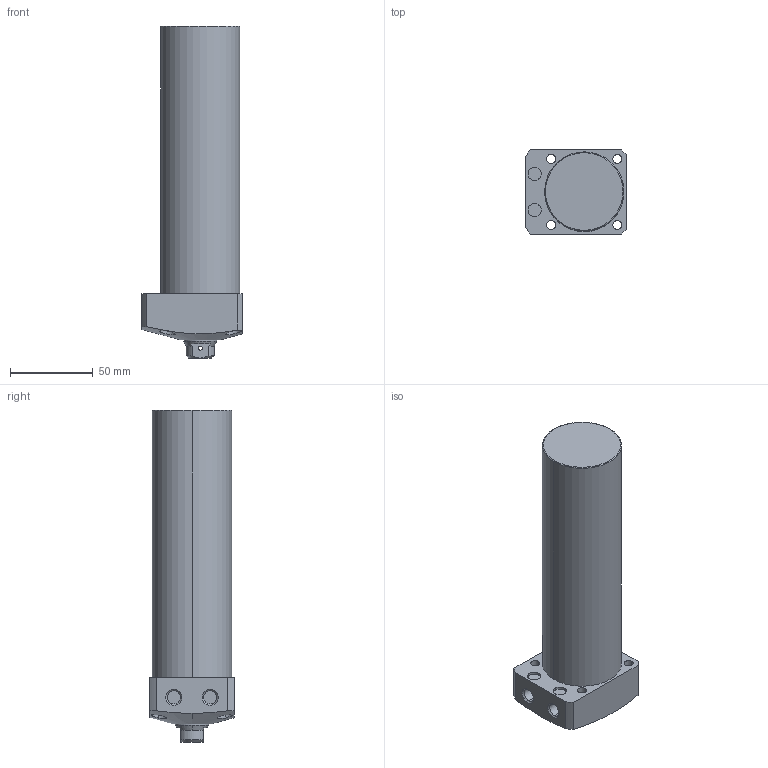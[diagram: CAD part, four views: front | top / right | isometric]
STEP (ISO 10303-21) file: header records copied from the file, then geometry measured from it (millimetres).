
FILE_DESCRIPTION (( 'STEP AP203' ), '1' );
FILE_NAME ('CLL-048CB-135.STEP', '2019-12-21T07:56:23', ( '' ), ( '' ), 'SwSTEP 2.0', 'SolidWorks 2015', '' );
FILE_SCHEMA (( 'CONFIG_CONTROL_DESIGN' ));
Length unit declared in the file: millimetre
Products named in the file (1): CLL-048CB-135
Bounding box: 61 x 51 x 201 mm (x, y, z)
Volume: 367312.7 mm3; surface area: 39244 mm2
Topology: 1 solids, 1 shells, 78 faces, 182 edges, 115 vertices
Faces by surface type: cylinder 39, plane 22, cone 15, torus 2
Entity records: 2751 total; most frequent: CARTESIAN_POINT 852, DIRECTION 394, ORIENTED_EDGE 360, EDGE_CURVE 180, AXIS2_PLACEMENT_3D 163, VERTEX_POINT 115, EDGE_LOOP 101, CIRCLE 84
